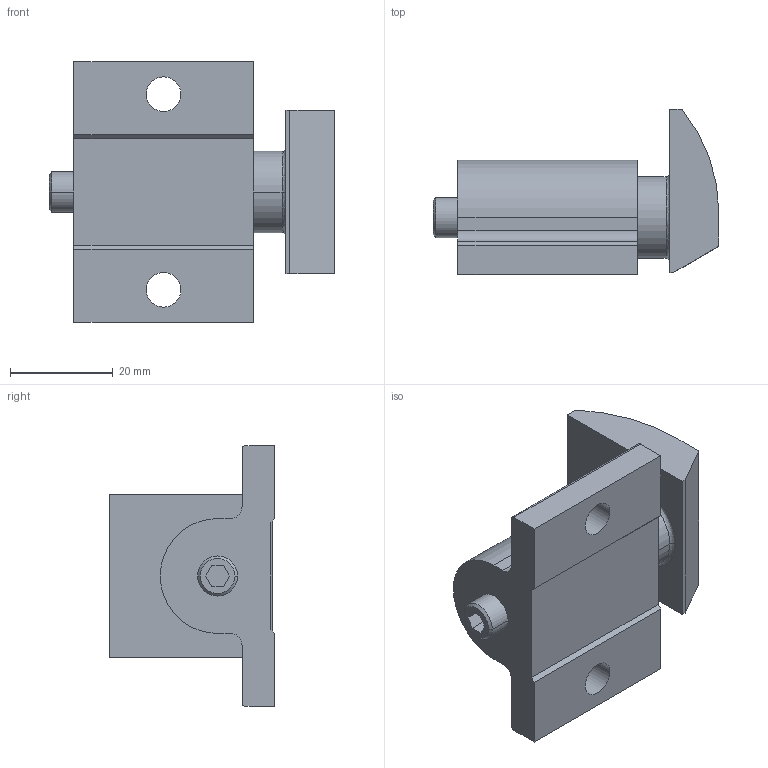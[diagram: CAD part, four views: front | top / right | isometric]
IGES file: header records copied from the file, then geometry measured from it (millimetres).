
Start section:  PTC IGES file: ss92c-3d.igs
Global section: file name: ss92c-3d.igs; native system: Pro/ENGINEER by Parametric Technology Corporation; preprocessor: 2002350; author: chant; organization: Unknown; date: 061026.144847; units: inch
Bounding box: 55.63 x 32.18 x 50.8 mm (x, y, z)
Surface area: 11039.8 mm2 (no closed solid volume)
Topology: 0 solids, 0 shells, 57 faces, 397 edges, 501 vertices
Faces by surface type: bspline 31, revolution 26
